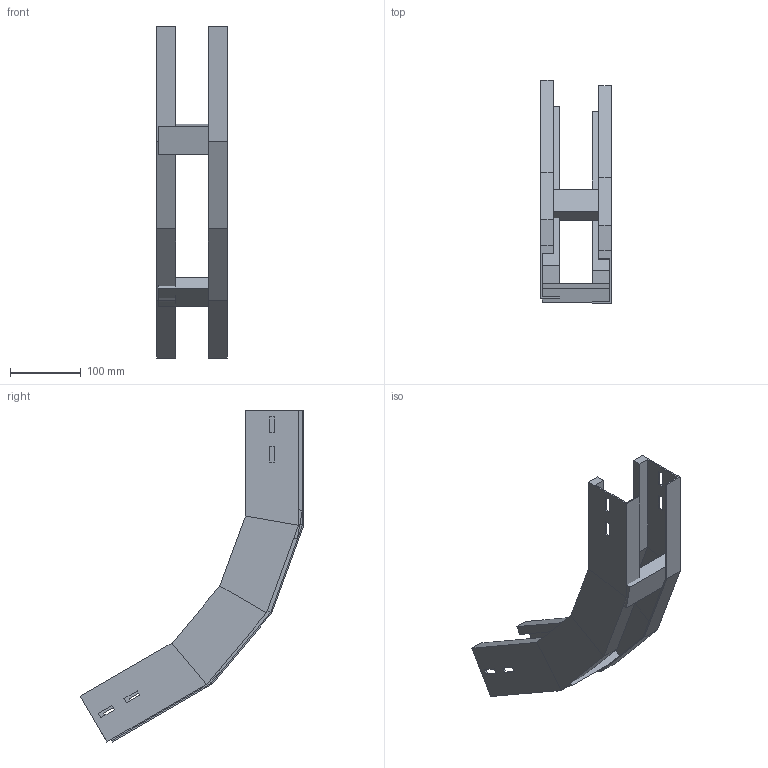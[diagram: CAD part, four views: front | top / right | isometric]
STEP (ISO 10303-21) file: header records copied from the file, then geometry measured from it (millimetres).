
FILE_DESCRIPTION (( 'STEP AP214' ), '1' );
FILE_NAME ('A2X40B3C100XX.step', '2025-04-02T09:23:23', ( '' ), ( '' ), 'SwSTEP 2.0', 'SolidWorks 2023', '' );
FILE_SCHEMA (( 'AUTOMOTIVE_DESIGN' ));
Length unit declared in the file: millimetre
Products named in the file (3): A2X40B3C100XX; TRAVERSINO_100; LONGH.SALITA_60°_H75_R300
Assembly tree (4 placements, depth 2):
  A2X40B3C100XX
    LONGH.SALITA_60°_H75_R300  x2
    TRAVERSINO_100  x2
Bounding box: 100 x 315.85 x 469.15 mm (x, y, z)
Volume: 575106 mm3; surface area: 287703.6 mm2
Topology: 4 solids, 4 shells, 112 faces, 264 edges, 160 vertices
Faces by surface type: plane 112
Entity records: 1664 total; most frequent: CARTESIAN_POINT 275, ORIENTED_EDGE 264, DIRECTION 258, LINE 132, EDGE_CURVE 132, VECTOR 132, VERTEX_POINT 80, EDGE_LOOP 64
